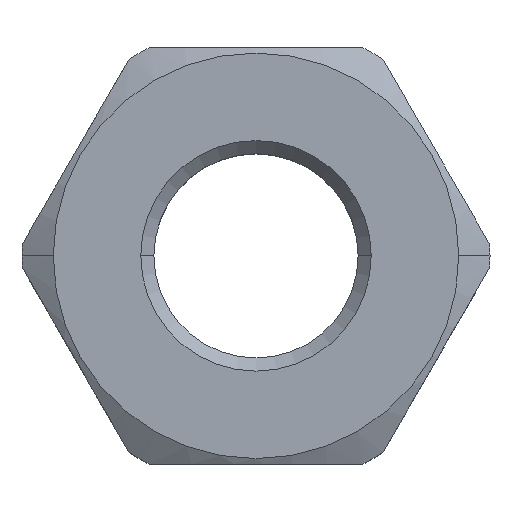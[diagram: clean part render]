
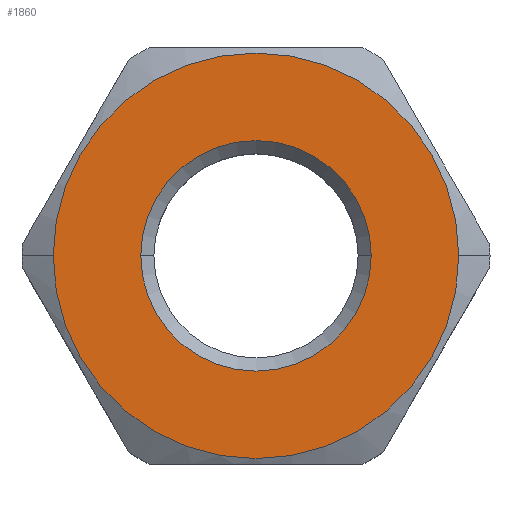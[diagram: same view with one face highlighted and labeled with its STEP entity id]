
A CAD part, top view. The second image highlights one B-rep face of the part: STEP entity #1860.
In plain terms, the highlighted planar face has unit normal (0, 0, 1).
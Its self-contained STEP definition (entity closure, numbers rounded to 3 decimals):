
#120=CARTESIAN_POINT('',(48.666,51.877,18.5));
#130=VERTEX_POINT('',#120);
#160=CARTESIAN_POINT('',(38.15,51.877,18.5));
#170=DIRECTION('',(0.,0.,1.));
#180=DIRECTION('',(1.,0.,0.));
#190=AXIS2_PLACEMENT_3D('',#160,#170,#180);
#200=CIRCLE('',#190,10.516);
#210=CARTESIAN_POINT('',(27.635,51.877,18.5));
#220=VERTEX_POINT('',#210);
#230=EDGE_CURVE('',#220,#130,#200,.T.);
#1610=CARTESIAN_POINT('',(33.493,51.877,18.5));
#1620=DIRECTION('',(0.,0.,1.));
#1630=DIRECTION('',(-1.,0.,0.));
#1640=AXIS2_PLACEMENT_3D('',#1610,#1620,#1630);
#1650=PLANE('',#1640);
#1660=EDGE_CURVE('',#130,#220,#200,.T.);
#1670=ORIENTED_EDGE('',*,*,#1660,.F.);
#1680=ORIENTED_EDGE('',*,*,#230,.F.);
#1690=EDGE_LOOP('',(#1680,#1670));
#1700=FACE_BOUND('',#1690,.T.);
#1710=CARTESIAN_POINT('',(38.15,51.877,18.5));
#1720=DIRECTION('',(0.,0.,-1.));
#1730=DIRECTION('',(1.,0.,0.));
#1740=AXIS2_PLACEMENT_3D('',#1710,#1720,#1730);
#1750=CIRCLE('',#1740,18.5);
#1760=CARTESIAN_POINT('',(19.65,51.877,18.5));
#1770=VERTEX_POINT('',#1760);
#1780=CARTESIAN_POINT('',(56.65,51.877,18.5));
#1790=VERTEX_POINT('',#1780);
#1800=EDGE_CURVE('',#1770,#1790,#1750,.T.);
#1810=ORIENTED_EDGE('',*,*,#1800,.F.);
#1820=EDGE_CURVE('',#1790,#1770,#1750,.T.);
#1830=ORIENTED_EDGE('',*,*,#1820,.F.);
#1840=EDGE_LOOP('',(#1830,#1810));
#1850=FACE_OUTER_BOUND('',#1840,.T.);
#1860=ADVANCED_FACE('',(#1700,#1850),#1650,.T.);
